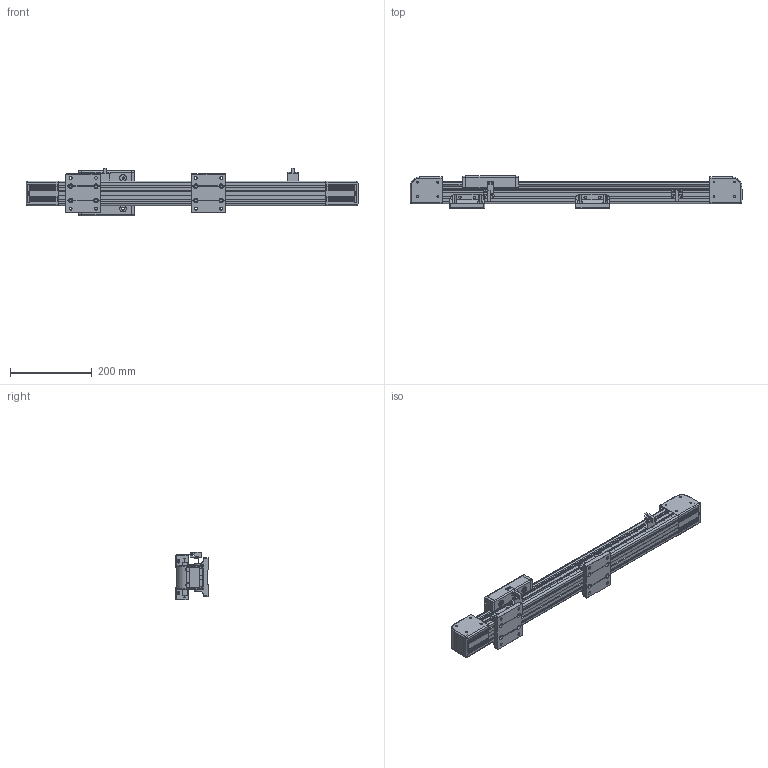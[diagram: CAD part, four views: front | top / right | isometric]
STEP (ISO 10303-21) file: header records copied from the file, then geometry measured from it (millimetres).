
FILE_DESCRIPTION (( 'STEP AP214' ), '1' );
FILE_NAME ('CF60-D-500-FW.STEP', '2020-01-15T07:12:16', ( '微软用户' ), ( '微软中国' ), 'SwSTEP 2.0', 'SolidWorks 2016', '' );
FILE_SCHEMA (( 'AUTOMOTIVE_DESIGN' ));
Length unit declared in the file: millimetre
Products named in the file (14): P60粣創釱傷裔; P60同步带轴承座初稿; CF60-D-500-FW; 嫖萇羲壽; 嫖萇羲壽嘐隅え; P60肮祭湍嫖萇結啣; 8MM嫖粣絳寢-500; 60肮祭湍倰第-500; 菁釱; P60同步带导轨润滑棉安装块右; P60同步带导轨润滑棉安装块; P60肮祭湍坶諶; p60同步带滑块最终版
Assembly tree (21 placements, depth 3):
  CF60-D-500-FW
    P60同步带轴承座初稿  x2
    P60粣創釱傷裔  x2
    p60同步带滑块最终版
    P60肮祭湍坶諶  x2
    P60同步带导轨润滑棉安装块  x2
    P60同步带导轨润滑棉安装块右  x2
    菁釱  x2
    60肮祭湍倰第-500
    8MM嫖粣絳寢-500  x2
    P60肮祭湍嫖萇結啣
    嫖萇羲壽  x2
      嫖萇羲壽嘐隅え
      嫖萇羲壽
Bounding box: 811.6 x 78.7 x 116.6 mm (x, y, z)
Volume: 1756033.9 mm3; surface area: 651238.3 mm2
Topology: 21 solids, 21 shells, 1402 faces, 3788 edges, 2464 vertices
Faces by surface type: cylinder 632, plane 606, torus 76, bspline 36, cone 32, sphere 20
Entity records: 30388 total; most frequent: CARTESIAN_POINT 7803, DIRECTION 4642, ORIENTED_EDGE 4584, EDGE_CURVE 2292, AXIS2_PLACEMENT_3D 1653, VERTEX_POINT 1506, VECTOR 1336, LINE 1336
